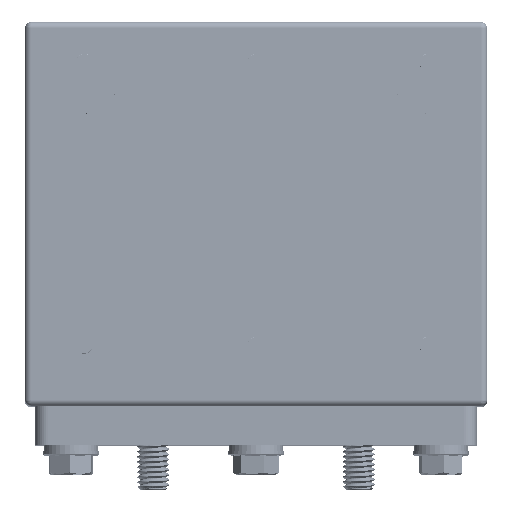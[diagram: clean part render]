
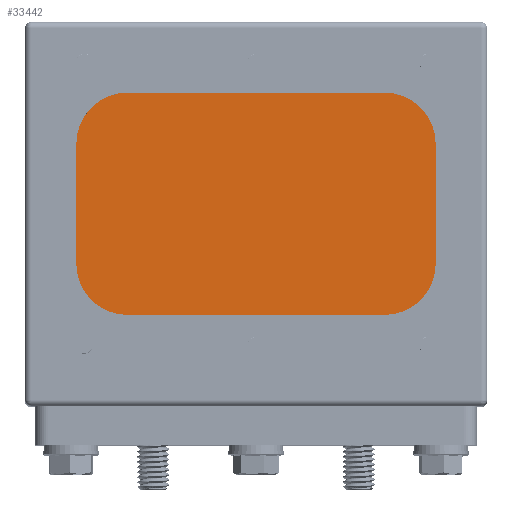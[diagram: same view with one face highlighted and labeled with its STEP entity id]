
A CAD part, top view. The second image highlights one B-rep face of the part: STEP entity #33442.
In plain terms, the highlighted planar face has unit normal (0, 0, 1).
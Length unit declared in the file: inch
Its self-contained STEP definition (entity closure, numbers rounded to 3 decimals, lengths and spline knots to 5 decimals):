
#744 = DIRECTION ( 'NONE',  ( -1., 0., 0. ) ) ;
#1031 = CARTESIAN_POINT ( 'NONE',  ( -1.365, 1.17, 0.11575 ) ) ;
#1321 = LINE ( 'NONE', #1031, #25056 ) ;
#1624 = PLANE ( 'NONE',  #14420 ) ;
#2224 = DIRECTION ( 'NONE',  ( 0., 0., 1. ) ) ;
#2815 = CIRCLE ( 'NONE', #18048, 0.47 ) ;
#3558 = CARTESIAN_POINT ( 'NONE',  ( 1.835, 0.7, 0.11575 ) ) ;
#5307 = ORIENTED_EDGE ( 'NONE', *, *, #27881, .T. ) ;
#6378 = DIRECTION ( 'NONE',  ( 1., 0., 0. ) ) ;
#7093 = CARTESIAN_POINT ( 'NONE',  ( 1.365, -1.17, 0.11575 ) ) ;
#8470 = CARTESIAN_POINT ( 'NONE',  ( -1.365, 1.17, 0.11575 ) ) ;
#9605 = AXIS2_PLACEMENT_3D ( 'NONE', #52497, #43274, #48582 ) ;
#9774 = DIRECTION ( 'NONE',  ( 0., -1., 0. ) ) ;
#9797 = VERTEX_POINT ( 'NONE', #48173 ) ;
#10063 = ORIENTED_EDGE ( 'NONE', *, *, #41305, .T. ) ;
#10546 = FACE_OUTER_BOUND ( 'NONE', #12846, .T. ) ;
#10656 = VERTEX_POINT ( 'NONE', #8470 ) ;
#11322 = DIRECTION ( 'NONE',  ( 1., 0., 0. ) ) ;
#12846 = EDGE_LOOP ( 'NONE', ( #50165, #10063, #5307, #21917, #34221, #27883, #14056, #50839 ) ) ;
#14056 = ORIENTED_EDGE ( 'NONE', *, *, #51466, .T. ) ;
#14420 = AXIS2_PLACEMENT_3D ( 'NONE', #42736, #38255, #6378 ) ;
#17758 = VERTEX_POINT ( 'NONE', #54787 ) ;
#18048 = AXIS2_PLACEMENT_3D ( 'NONE', #43042, #2224, #47785 ) ;
#18638 = EDGE_CURVE ( 'NONE', #30847, #57500, #48188, .T. ) ;
#20082 = CIRCLE ( 'NONE', #22965, 0.47 ) ;
#20379 = CARTESIAN_POINT ( 'NONE',  ( 1.365, -0.7, 0.11575 ) ) ;
#20575 = DIRECTION ( 'NONE',  ( 0., 1., 0. ) ) ;
#21917 = ORIENTED_EDGE ( 'NONE', *, *, #40708, .T. ) ;
#22223 = VECTOR ( 'NONE', #9774, 39.37008 ) ;
#22524 = CARTESIAN_POINT ( 'NONE',  ( -1.835, -0.7, 0.11575 ) ) ;
#22965 = AXIS2_PLACEMENT_3D ( 'NONE', #27495, #56312, #11322 ) ;
#24350 = CARTESIAN_POINT ( 'NONE',  ( -1.835, -0.7, 0.11575 ) ) ;
#25056 = VECTOR ( 'NONE', #744, 39.37008 ) ;
#25255 = DIRECTION ( 'NONE',  ( 1., 0., 0. ) ) ;
#27495 = CARTESIAN_POINT ( 'NONE',  ( -1.365, 0.7, 0.11575 ) ) ;
#27881 = EDGE_CURVE ( 'NONE', #44211, #28548, #33591, .T. ) ;
#27883 = ORIENTED_EDGE ( 'NONE', *, *, #38473, .T. ) ;
#28548 = VERTEX_POINT ( 'NONE', #22524 ) ;
#29201 = CARTESIAN_POINT ( 'NONE',  ( 1.365, 1.17, 0.11575 ) ) ;
#30843 = CARTESIAN_POINT ( 'NONE',  ( -1.835, 0.7, 0.11575 ) ) ;
#30847 = VERTEX_POINT ( 'NONE', #44213 ) ;
#33429 = VECTOR ( 'NONE', #20575, 39.37008 ) ;
#33442 = ADVANCED_FACE ( 'NONE', ( #10546 ), #1624, .T. ) ;
#33591 = LINE ( 'NONE', #24350, #22223 ) ;
#34221 = ORIENTED_EDGE ( 'NONE', *, *, #18638, .T. ) ;
#36920 = EDGE_CURVE ( 'NONE', #17758, #49297, #2815, .T. ) ;
#38255 = DIRECTION ( 'NONE',  ( 0., 0., 1. ) ) ;
#38473 = EDGE_CURVE ( 'NONE', #57500, #9797, #48559, .T. ) ;
#38542 = DIRECTION ( 'NONE',  ( 0., 0., 1. ) ) ;
#40708 = EDGE_CURVE ( 'NONE', #28548, #30847, #42937, .T. ) ;
#41305 = EDGE_CURVE ( 'NONE', #10656, #44211, #20082, .T. ) ;
#42736 = CARTESIAN_POINT ( 'NONE',  ( 0., 0., 0.11575 ) ) ;
#42937 = CIRCLE ( 'NONE', #9605, 0.47 ) ;
#43042 = CARTESIAN_POINT ( 'NONE',  ( 1.365, 0.7, 0.11575 ) ) ;
#43274 = DIRECTION ( 'NONE',  ( 0., 0., 1. ) ) ;
#44211 = VERTEX_POINT ( 'NONE', #30843 ) ;
#44213 = CARTESIAN_POINT ( 'NONE',  ( -1.365, -1.17, 0.11575 ) ) ;
#45978 = EDGE_CURVE ( 'NONE', #49297, #10656, #1321, .T. ) ;
#47785 = DIRECTION ( 'NONE',  ( 1., 0., 0. ) ) ;
#48173 = CARTESIAN_POINT ( 'NONE',  ( 1.835, -0.7, 0.11575 ) ) ;
#48188 = LINE ( 'NONE', #7093, #56721 ) ;
#48559 = CIRCLE ( 'NONE', #55201, 0.47 ) ;
#48582 = DIRECTION ( 'NONE',  ( 1., 0., 0. ) ) ;
#49297 = VERTEX_POINT ( 'NONE', #29201 ) ;
#50165 = ORIENTED_EDGE ( 'NONE', *, *, #45978, .T. ) ;
#50839 = ORIENTED_EDGE ( 'NONE', *, *, #36920, .T. ) ;
#51466 = EDGE_CURVE ( 'NONE', #9797, #17758, #52457, .T. ) ;
#52457 = LINE ( 'NONE', #3558, #33429 ) ;
#52497 = CARTESIAN_POINT ( 'NONE',  ( -1.365, -0.7, 0.11575 ) ) ;
#54217 = CARTESIAN_POINT ( 'NONE',  ( 1.365, -1.17, 0.11575 ) ) ;
#54787 = CARTESIAN_POINT ( 'NONE',  ( 1.835, 0.7, 0.11575 ) ) ;
#55201 = AXIS2_PLACEMENT_3D ( 'NONE', #20379, #38542, #56713 ) ;
#56312 = DIRECTION ( 'NONE',  ( 0., 0., 1. ) ) ;
#56713 = DIRECTION ( 'NONE',  ( 1., 0., 0. ) ) ;
#56721 = VECTOR ( 'NONE', #25255, 39.37008 ) ;
#57500 = VERTEX_POINT ( 'NONE', #54217 ) ;
